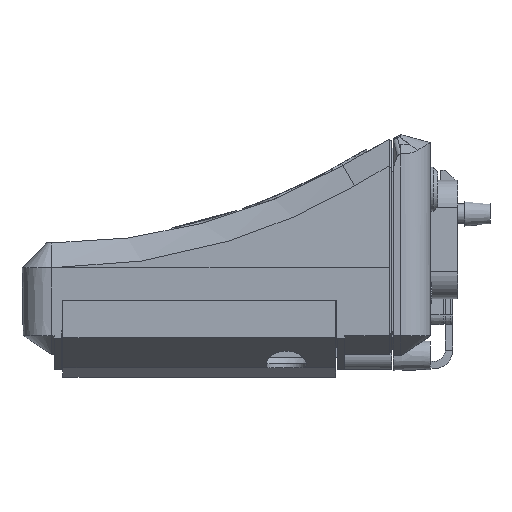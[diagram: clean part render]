
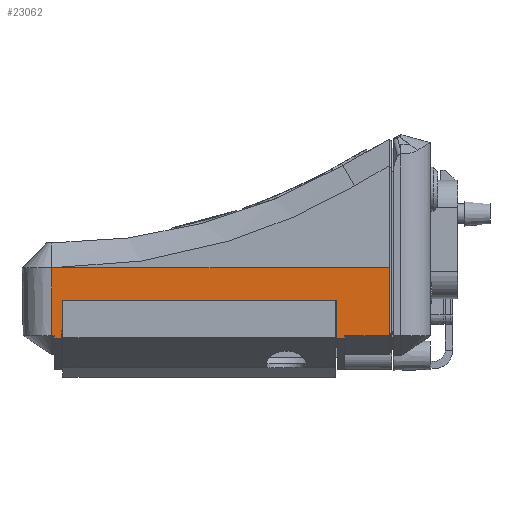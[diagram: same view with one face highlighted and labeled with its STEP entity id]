
A CAD part, left-side view. The second image highlights one B-rep face of the part: STEP entity #23062.
In plain terms, the highlighted planar face has unit normal (-1, 0, -0.018).
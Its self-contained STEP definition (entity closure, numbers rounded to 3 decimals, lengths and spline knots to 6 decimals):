
#3070=ORIENTED_EDGE('',*,*,#9698,.F.);
#3071=ORIENTED_EDGE('',*,*,#9729,.T.);
#3072=ORIENTED_EDGE('',*,*,#9728,.F.);
#3073=ORIENTED_EDGE('',*,*,#9730,.T.);
#3074=ORIENTED_EDGE('',*,*,#9731,.F.);
#3075=ORIENTED_EDGE('',*,*,#9732,.T.);
#3076=ORIENTED_EDGE('',*,*,#9733,.F.);
#3077=ORIENTED_EDGE('',*,*,#9712,.F.);
#3078=ORIENTED_EDGE('',*,*,#9236,.F.);
#3079=ORIENTED_EDGE('',*,*,#9734,.F.);
#3080=ORIENTED_EDGE('',*,*,#9263,.T.);
#3081=ORIENTED_EDGE('',*,*,#9735,.T.);
#9236=EDGE_CURVE('',#12638,#12639,#14890,.T.);
#9263=EDGE_CURVE('',#12665,#12664,#14911,.T.);
#9698=EDGE_CURVE('',#13035,#13036,#15089,.T.);
#9712=EDGE_CURVE('',#12639,#13041,#15103,.T.);
#9728=EDGE_CURVE('',#13050,#13049,#15115,.T.);
#9729=EDGE_CURVE('',#13035,#13049,#15116,.T.);
#9730=EDGE_CURVE('',#13050,#13051,#15117,.T.);
#9731=EDGE_CURVE('',#13052,#13051,#15118,.T.);
#9732=EDGE_CURVE('',#13052,#13053,#15119,.T.);
#9733=EDGE_CURVE('',#13041,#13053,#15120,.T.);
#9734=EDGE_CURVE('',#12665,#12638,#15121,.T.);
#9735=EDGE_CURVE('',#12664,#13036,#15122,.T.);
#12638=VERTEX_POINT('',#33350);
#12639=VERTEX_POINT('',#33352);
#12664=VERTEX_POINT('',#33405);
#12665=VERTEX_POINT('',#33407);
#13035=VERTEX_POINT('',#37531);
#13036=VERTEX_POINT('',#37533);
#13041=VERTEX_POINT('',#37557);
#13049=VERTEX_POINT('',#37585);
#13050=VERTEX_POINT('',#37587);
#13051=VERTEX_POINT('',#37592);
#13052=VERTEX_POINT('',#37594);
#13053=VERTEX_POINT('',#37596);
#14890=LINE('',#33351,#16959);
#14911=LINE('',#33406,#16980);
#15089=LINE('',#37532,#17158);
#15103=LINE('',#37559,#17172);
#15115=LINE('',#37588,#17184);
#15116=LINE('',#37590,#17185);
#15117=LINE('',#37591,#17186);
#15118=LINE('',#37593,#17187);
#15119=LINE('',#37595,#17188);
#15120=LINE('',#37597,#17189);
#15121=LINE('',#37598,#17190);
#15122=LINE('',#37599,#17191);
#16959=VECTOR('',#26683,1.);
#16980=VECTOR('',#26720,1.);
#17158=VECTOR('',#27092,1.);
#17172=VECTOR('',#27120,1.);
#17184=VECTOR('',#27148,1.);
#17185=VECTOR('',#27151,1.);
#17186=VECTOR('',#27152,1.);
#17187=VECTOR('',#27153,1.);
#17188=VECTOR('',#27154,1.);
#17189=VECTOR('',#27155,1.);
#17190=VECTOR('',#27156,1.);
#17191=VECTOR('',#27157,1.);
#19064=EDGE_LOOP('',(#3070,#3071,#3072,#3073,#3074,#3075,#3076,#3077,#3078,
#3079,#3080,#3081));
#20695=FACE_BOUND('',#19064,.T.);
#22190=PLANE('',#24532);
#23062=ADVANCED_FACE('',(#20695),#22190,.T.);
#24532=AXIS2_PLACEMENT_3D('',#37589,#27149,#27150);
#26683=DIRECTION('',(-0.017,0.017,1.));
#26720=DIRECTION('',(-0.017,-0.017,1.));
#27092=DIRECTION('',(0.017,0.,-1.));
#27120=DIRECTION('',(0.,1.,0.));
#27148=DIRECTION('',(-0.017,0.,1.));
#27149=DIRECTION('',(-1.,0.,-0.017));
#27150=DIRECTION('',(-0.017,0.,1.));
#27151=DIRECTION('',(0.,1.,0.));
#27152=DIRECTION('',(0.,-1.,0.));
#27153=DIRECTION('',(-0.017,0.017,1.));
#27154=DIRECTION('',(0.,-1.,0.));
#27155=DIRECTION('',(0.017,0.017,-1.));
#27156=DIRECTION('',(0.,1.,0.));
#27157=DIRECTION('',(0.,-1.,0.));
#33350=CARTESIAN_POINT('',(-0.065407,0.012532,-0.012978));
#33351=CARTESIAN_POINT('',(-0.065355,0.01248,-0.015945));
#33352=CARTESIAN_POINT('',(-0.065539,0.012664,-0.005419));
#33405=CARTESIAN_POINT('',(-0.065416,0.010959,-0.012472));
#33406=CARTESIAN_POINT('',(-0.065647,0.010728,0.000765));
#33407=CARTESIAN_POINT('',(-0.065407,0.010968,-0.012978));
#37531=CARTESIAN_POINT('',(-0.065654,0.002,0.001188));
#37532=CARTESIAN_POINT('',(-0.06611,0.002,0.027306));
#37533=CARTESIAN_POINT('',(-0.065416,0.002,-0.012472));
#37557=CARTESIAN_POINT('',(-0.065539,0.067836,-0.005419));
#37559=CARTESIAN_POINT('',(-0.065539,0.036,-0.005419));
#37585=CARTESIAN_POINT('',(-0.065654,0.07,0.001188));
#37587=CARTESIAN_POINT('',(-0.065416,0.07,-0.012472));
#37588=CARTESIAN_POINT('',(-0.065654,0.07,0.001188));
#37589=CARTESIAN_POINT('',(-0.065654,0.035,0.001188));
#37590=CARTESIAN_POINT('',(-0.065654,0.035,0.001188));
#37591=CARTESIAN_POINT('',(-0.065416,0.07,-0.012472));
#37592=CARTESIAN_POINT('',(-0.065416,0.069541,-0.012472));
#37593=CARTESIAN_POINT('',(-0.065355,0.06948,-0.015945));
#37594=CARTESIAN_POINT('',(-0.065407,0.069532,-0.012978));
#37595=CARTESIAN_POINT('',(-0.065407,0.035,-0.012978));
#37596=CARTESIAN_POINT('',(-0.065407,0.067968,-0.012978));
#37597=CARTESIAN_POINT('',(-0.065355,0.06802,-0.015945));
#37598=CARTESIAN_POINT('',(-0.065407,0.035,-0.012978));
#37599=CARTESIAN_POINT('',(-0.065416,0.07,-0.012472));
